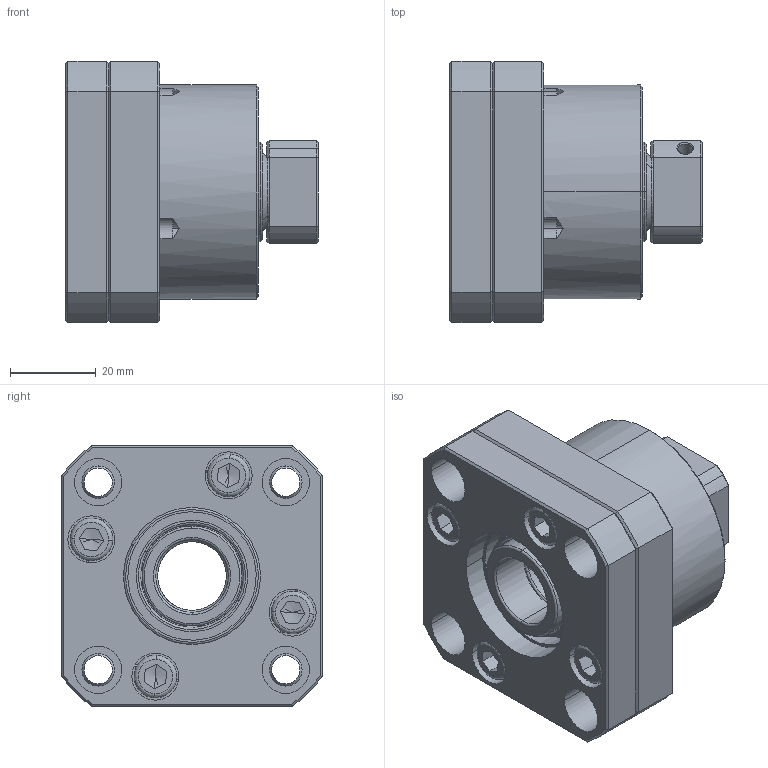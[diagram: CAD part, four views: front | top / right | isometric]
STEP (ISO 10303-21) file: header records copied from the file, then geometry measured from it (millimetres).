
FILE_DESCRIPTION (( 'STEP AP203' ), '1' );
FILE_NAME ('FK17²Õ¦XB.STEP', '2021-09-29T01:24:57', ( '' ), ( '' ), 'SwSTEP 2.0', 'SolidWorks 2018', '' );
FILE_SCHEMA (( 'CONFIG_CONTROL_DESIGN' ));
Length unit declared in the file: millimetre
Products named in the file (1): FK17組合B
Bounding box: 59 x 61 x 61 mm (x, y, z)
Surface area: 28193.1 mm2 (no closed solid volume)
Topology: 0 solids, 12 shells, 229 faces, 587 edges, 361 vertices
Faces by surface type: cylinder 77, plane 72, cone 54, torus 14, bspline 12
Entity records: 7503 total; most frequent: CARTESIAN_POINT 2034, DIRECTION 1162, ORIENTED_EDGE 1043, EDGE_CURVE 579, AXIS2_PLACEMENT_3D 471, VERTEX_POINT 361, EDGE_LOOP 260, CIRCLE 253
